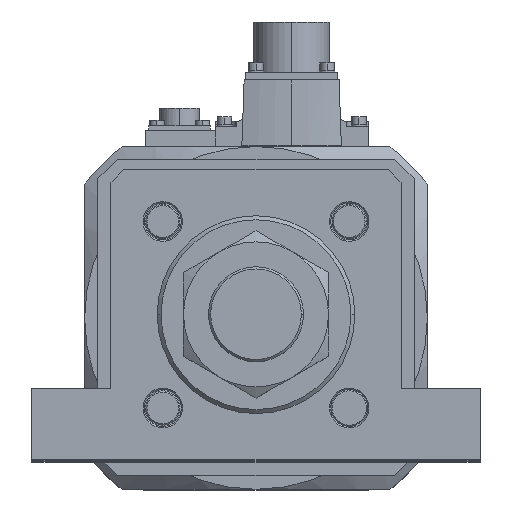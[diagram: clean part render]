
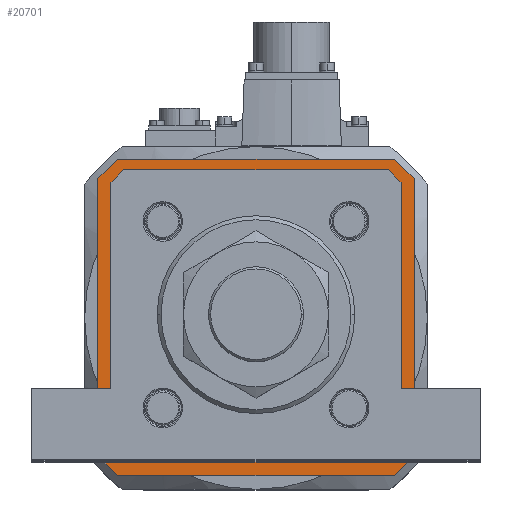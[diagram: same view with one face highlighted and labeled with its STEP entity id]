
A CAD part, top view. The second image highlights one B-rep face of the part: STEP entity #20701.
In plain terms, the highlighted planar face has unit normal (0, 0, 1) as drawn and (0, 0, -1) by its records, which use the part's own axes.
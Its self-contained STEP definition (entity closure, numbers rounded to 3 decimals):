
#440 = VECTOR ( 'NONE', #26343, 1000. ) ;
#832 = LINE ( 'NONE', #28523, #35370 ) ;
#967 = DIRECTION ( 'NONE',  ( 0.707, -0.707, 0. ) ) ;
#1841 = ORIENTED_EDGE ( 'NONE', *, *, #26699, .F. ) ;
#1900 = LINE ( 'NONE', #35434, #9271 ) ;
#2368 = VECTOR ( 'NONE', #13964, 1000. ) ;
#2809 = CARTESIAN_POINT ( 'NONE',  ( -60., -52.5, 52. ) ) ;
#2981 = DIRECTION ( 'NONE',  ( 0., 1., 0. ) ) ;
#3005 = LINE ( 'NONE', #22424, #28770 ) ;
#3205 = LINE ( 'NONE', #20541, #20279 ) ;
#3233 = VECTOR ( 'NONE', #10446, 1000. ) ;
#3249 = ORIENTED_EDGE ( 'NONE', *, *, #16339, .T. ) ;
#3750 = LINE ( 'NONE', #9501, #7421 ) ;
#3982 = CARTESIAN_POINT ( 'NONE',  ( -60., 52.5, 52. ) ) ;
#4301 = EDGE_CURVE ( 'NONE', #4748, #32952, #5816, .T. ) ;
#4409 = VERTEX_POINT ( 'NONE', #12999 ) ;
#4580 = DIRECTION ( 'NONE',  ( -0.707, -0.707, 0. ) ) ;
#4748 = VERTEX_POINT ( 'NONE', #29477 ) ;
#4816 = PLANE ( 'NONE',  #32099 ) ;
#5066 = LINE ( 'NONE', #36479, #3233 ) ;
#5336 = ORIENTED_EDGE ( 'NONE', *, *, #26851, .F. ) ;
#5816 = LINE ( 'NONE', #24022, #25201 ) ;
#6172 = VERTEX_POINT ( 'NONE', #30923 ) ;
#7127 = ORIENTED_EDGE ( 'NONE', *, *, #26904, .T. ) ;
#7326 = EDGE_LOOP ( 'NONE', ( #31200, #35454, #5336, #7127, #28164, #7512, #1841, #21836 ) ) ;
#7421 = VECTOR ( 'NONE', #12088, 1000. ) ;
#7512 = ORIENTED_EDGE ( 'NONE', *, *, #4301, .T. ) ;
#7787 = VERTEX_POINT ( 'NONE', #37260 ) ;
#8728 = EDGE_CURVE ( 'NONE', #27311, #8808, #3005, .T. ) ;
#8808 = VERTEX_POINT ( 'NONE', #10534 ) ;
#9271 = VECTOR ( 'NONE', #2981, 1000. ) ;
#9501 = CARTESIAN_POINT ( 'NONE',  ( -60., 60., 52. ) ) ;
#9794 = CARTESIAN_POINT ( 'NONE',  ( 52.5, -60., 52. ) ) ;
#10446 = DIRECTION ( 'NONE',  ( -0.707, 0.707, 0. ) ) ;
#10534 = CARTESIAN_POINT ( 'NONE',  ( 49.593, -53.5, 52. ) ) ;
#10884 = ORIENTED_EDGE ( 'NONE', *, *, #32195, .T. ) ;
#12088 = DIRECTION ( 'NONE',  ( 0., -1., 0. ) ) ;
#12288 = DIRECTION ( 'NONE',  ( -1., 0., 0. ) ) ;
#12908 = CARTESIAN_POINT ( 'NONE',  ( -51.546, -51.546, 52. ) ) ;
#12999 = CARTESIAN_POINT ( 'NONE',  ( 60., -52.5, 52. ) ) ;
#13563 = CARTESIAN_POINT ( 'NONE',  ( -53.5, -49.8, 52. ) ) ;
#13942 = EDGE_CURVE ( 'NONE', #18237, #30549, #17719, .T. ) ;
#13964 = DIRECTION ( 'NONE',  ( -0.707, -0.707, 0. ) ) ;
#14555 = VERTEX_POINT ( 'NONE', #9794 ) ;
#15208 = CARTESIAN_POINT ( 'NONE',  ( -60., 52.5, 52. ) ) ;
#15501 = DIRECTION ( 'NONE',  ( 1., 0., 0. ) ) ;
#15574 = VERTEX_POINT ( 'NONE', #27267 ) ;
#16339 = EDGE_CURVE ( 'NONE', #30549, #7787, #5066, .T. ) ;
#16537 = DIRECTION ( 'NONE',  ( 0., -1., 0. ) ) ;
#16538 = CARTESIAN_POINT ( 'NONE',  ( 0., 0., 52. ) ) ;
#17719 = LINE ( 'NONE', #22705, #30154 ) ;
#17774 = VECTOR ( 'NONE', #15501, 1000. ) ;
#17888 = EDGE_CURVE ( 'NONE', #4748, #24726, #3205, .T. ) ;
#17935 = DIRECTION ( 'NONE',  ( -1., 0., 0. ) ) ;
#18223 = VECTOR ( 'NONE', #23695, 1000. ) ;
#18237 = VERTEX_POINT ( 'NONE', #26534 ) ;
#18463 = CARTESIAN_POINT ( 'NONE',  ( 60., 52.5, 52. ) ) ;
#18956 = LINE ( 'NONE', #27977, #2368 ) ;
#19421 = VECTOR ( 'NONE', #29759, 1000. ) ;
#20279 = VECTOR ( 'NONE', #17935, 1000. ) ;
#20541 = CARTESIAN_POINT ( 'NONE',  ( -60., 60., 52. ) ) ;
#20701 = ADVANCED_FACE ( 'NONE', ( #30610, #29219 ), #4816, .F. ) ;
#21296 = DIRECTION ( 'NONE',  ( 0.707, -0.707, 0. ) ) ;
#21583 = CARTESIAN_POINT ( 'NONE',  ( -60., -60., 52. ) ) ;
#21836 = ORIENTED_EDGE ( 'NONE', *, *, #36815, .T. ) ;
#22424 = CARTESIAN_POINT ( 'NONE',  ( 49.8, -53.5, 52. ) ) ;
#22433 = ORIENTED_EDGE ( 'NONE', *, *, #28703, .T. ) ;
#22644 = VECTOR ( 'NONE', #16537, 1000. ) ;
#22705 = CARTESIAN_POINT ( 'NONE',  ( 53.5, 49.8, 52. ) ) ;
#23263 = EDGE_CURVE ( 'NONE', #15574, #36883, #26758, .T. ) ;
#23328 = CARTESIAN_POINT ( 'NONE',  ( -52.5, -60., 52. ) ) ;
#23540 = ORIENTED_EDGE ( 'NONE', *, *, #23263, .T. ) ;
#23695 = DIRECTION ( 'NONE',  ( -0.707, 0.707, 0. ) ) ;
#24022 = CARTESIAN_POINT ( 'NONE',  ( 52.5, 60., 52. ) ) ;
#24449 = EDGE_CURVE ( 'NONE', #8808, #18237, #37289, .T. ) ;
#24726 = VERTEX_POINT ( 'NONE', #36462 ) ;
#25201 = VECTOR ( 'NONE', #21296, 1000. ) ;
#25439 = CARTESIAN_POINT ( 'NONE',  ( -49.593, -53.5, 52. ) ) ;
#25441 = DIRECTION ( 'NONE',  ( 1., 0., 0. ) ) ;
#25612 = LINE ( 'NONE', #21583, #17774 ) ;
#25628 = CARTESIAN_POINT ( 'NONE',  ( -49.593, 53.5, 52. ) ) ;
#25722 = VECTOR ( 'NONE', #12288, 1000. ) ;
#25954 = ORIENTED_EDGE ( 'NONE', *, *, #8728, .T. ) ;
#26313 = EDGE_CURVE ( 'NONE', #6172, #14555, #25612, .T. ) ;
#26343 = DIRECTION ( 'NONE',  ( 0.707, 0.707, 0. ) ) ;
#26534 = CARTESIAN_POINT ( 'NONE',  ( 53.5, -49.593, 52. ) ) ;
#26699 = EDGE_CURVE ( 'NONE', #4409, #32952, #1900, .T. ) ;
#26758 = LINE ( 'NONE', #13563, #22644 ) ;
#26851 = EDGE_CURVE ( 'NONE', #26975, #28565, #3750, .T. ) ;
#26904 = EDGE_CURVE ( 'NONE', #26975, #24726, #32817, .T. ) ;
#26975 = VERTEX_POINT ( 'NONE', #3982 ) ;
#27267 = CARTESIAN_POINT ( 'NONE',  ( -53.5, 49.593, 52. ) ) ;
#27311 = VERTEX_POINT ( 'NONE', #25439 ) ;
#27535 = LINE ( 'NONE', #35622, #25722 ) ;
#27947 = CARTESIAN_POINT ( 'NONE',  ( 53.5, 49.593, 52. ) ) ;
#27977 = CARTESIAN_POINT ( 'NONE',  ( 60., -52.5, 52. ) ) ;
#28164 = ORIENTED_EDGE ( 'NONE', *, *, #17888, .F. ) ;
#28523 = CARTESIAN_POINT ( 'NONE',  ( -51.546, 51.546, 52. ) ) ;
#28565 = VERTEX_POINT ( 'NONE', #2809 ) ;
#28703 = EDGE_CURVE ( 'NONE', #7787, #35460, #27535, .T. ) ;
#28732 = VECTOR ( 'NONE', #967, 1000. ) ;
#28770 = VECTOR ( 'NONE', #37342, 1000. ) ;
#29219 = FACE_OUTER_BOUND ( 'NONE', #7326, .T. ) ;
#29477 = CARTESIAN_POINT ( 'NONE',  ( 52.5, 60., 52. ) ) ;
#29759 = DIRECTION ( 'NONE',  ( 0.707, 0.707, 0. ) ) ;
#29997 = EDGE_CURVE ( 'NONE', #35460, #15574, #832, .T. ) ;
#30154 = VECTOR ( 'NONE', #37744, 1000. ) ;
#30549 = VERTEX_POINT ( 'NONE', #27947 ) ;
#30610 = FACE_BOUND ( 'NONE', #37627, .T. ) ;
#30923 = CARTESIAN_POINT ( 'NONE',  ( -52.5, -60., 52. ) ) ;
#31200 = ORIENTED_EDGE ( 'NONE', *, *, #26313, .F. ) ;
#31412 = EDGE_CURVE ( 'NONE', #6172, #28565, #38023, .T. ) ;
#32003 = CARTESIAN_POINT ( 'NONE',  ( 51.546, -51.546, 52. ) ) ;
#32099 = AXIS2_PLACEMENT_3D ( 'NONE', #16538, #37138, #25441 ) ;
#32195 = EDGE_CURVE ( 'NONE', #36883, #27311, #33372, .T. ) ;
#32817 = LINE ( 'NONE', #15208, #19421 ) ;
#32931 = ORIENTED_EDGE ( 'NONE', *, *, #24449, .T. ) ;
#32952 = VERTEX_POINT ( 'NONE', #18463 ) ;
#33372 = LINE ( 'NONE', #12908, #28732 ) ;
#34973 = ORIENTED_EDGE ( 'NONE', *, *, #29997, .T. ) ;
#35370 = VECTOR ( 'NONE', #4580, 1000. ) ;
#35434 = CARTESIAN_POINT ( 'NONE',  ( 60., 60., 52. ) ) ;
#35454 = ORIENTED_EDGE ( 'NONE', *, *, #31412, .T. ) ;
#35460 = VERTEX_POINT ( 'NONE', #25628 ) ;
#35622 = CARTESIAN_POINT ( 'NONE',  ( -49.8, 53.5, 52. ) ) ;
#36462 = CARTESIAN_POINT ( 'NONE',  ( -52.5, 60., 52. ) ) ;
#36479 = CARTESIAN_POINT ( 'NONE',  ( 51.546, 51.546, 52. ) ) ;
#36815 = EDGE_CURVE ( 'NONE', #4409, #14555, #18956, .T. ) ;
#36883 = VERTEX_POINT ( 'NONE', #37397 ) ;
#37138 = DIRECTION ( 'NONE',  ( 0., 0., 1. ) ) ;
#37260 = CARTESIAN_POINT ( 'NONE',  ( 49.593, 53.5, 52. ) ) ;
#37278 = ORIENTED_EDGE ( 'NONE', *, *, #13942, .T. ) ;
#37289 = LINE ( 'NONE', #32003, #440 ) ;
#37342 = DIRECTION ( 'NONE',  ( 1., 0., 0. ) ) ;
#37397 = CARTESIAN_POINT ( 'NONE',  ( -53.5, -49.593, 52. ) ) ;
#37627 = EDGE_LOOP ( 'NONE', ( #3249, #22433, #34973, #23540, #10884, #25954, #32931, #37278 ) ) ;
#37744 = DIRECTION ( 'NONE',  ( 0., 1., 0. ) ) ;
#38023 = LINE ( 'NONE', #23328, #18223 ) ;
